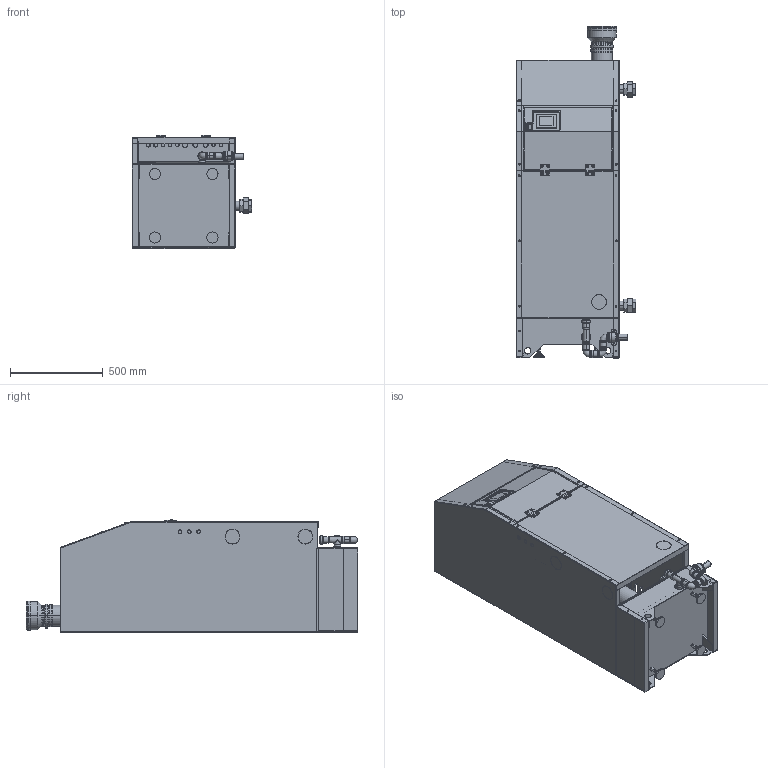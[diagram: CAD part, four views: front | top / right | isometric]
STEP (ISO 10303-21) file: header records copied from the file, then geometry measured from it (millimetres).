
FILE_DESCRIPTION (( 'STEP AP203' ), '1' );
FILE_NAME ('MDL.070.M.CA.STEP', '2026-04-02T06:26:18', ( '' ), ( '' ), 'SwSTEP 2.0', 'SolidWorks 2025', '' );
FILE_SCHEMA (( 'CONFIG_CONTROL_DESIGN' ));
Products named in the file (1): MDL.070.M.CA
Bounding box: 643.8 x 1787.5 x 610 mm (x, y, z)
Surface area: 9538982.2 mm2 (no closed solid volume)
Topology: 0 solids, 459 shells, 2064 faces, 8882 edges, 7046 vertices
Faces by surface type: plane 875, cylinder 753, torus 183, cone 98, bspline 83, sphere 72
Entity records: 97077 total; most frequent: CARTESIAN_POINT 25552, DIRECTION 15046, ORIENTED_EDGE 11862, EDGE_CURVE 8866, VERTEX_POINT 7040, AXIS2_PLACEMENT_3D 5084, VECTOR 4878, LINE 4878
